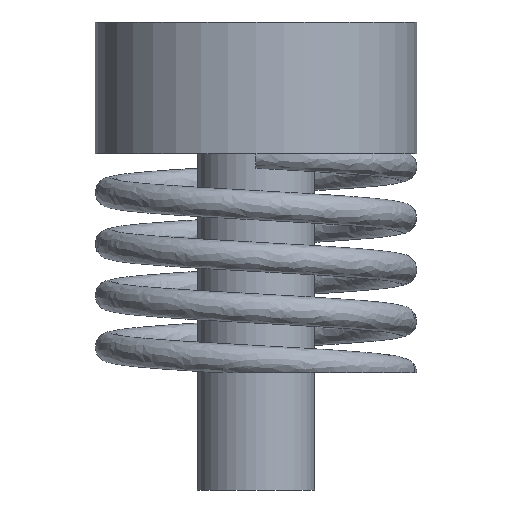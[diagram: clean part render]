
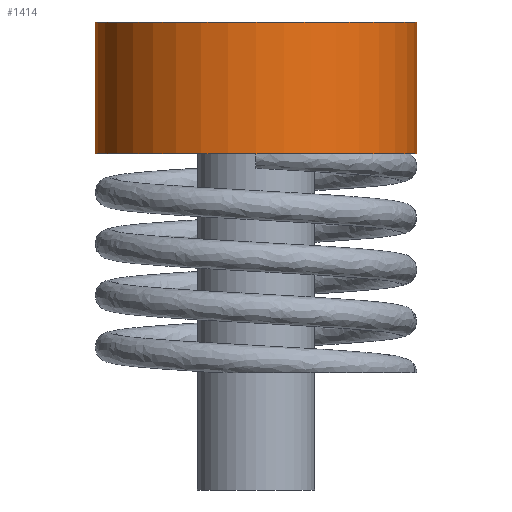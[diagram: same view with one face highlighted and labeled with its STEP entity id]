
A CAD part, front view. The second image highlights one B-rep face of the part: STEP entity #1414.
In plain terms, the highlighted cylindrical face has radius 5.5 mm (diameter 11 mm), a partial arc.
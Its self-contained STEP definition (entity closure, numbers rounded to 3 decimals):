
#150 = CARTESIAN_POINT ( 'NONE',  ( 0., 0., -4.5 ) ) ;
#180 = DIRECTION ( 'NONE',  ( 0., 0., 1. ) ) ;
#264 = EDGE_LOOP ( 'NONE', ( #1579, #1354, #2897, #3402 ) ) ;
#320 = VERTEX_POINT ( 'NONE', #778 ) ;
#501 = CARTESIAN_POINT ( 'NONE',  ( 5.5, 0., 0. ) ) ;
#622 = DIRECTION ( 'NONE',  ( 1., 0., 0. ) ) ;
#676 = AXIS2_PLACEMENT_3D ( 'NONE', #150, #1903, #1554 ) ;
#778 = CARTESIAN_POINT ( 'NONE',  ( -5.5, 0., -4.5 ) ) ;
#818 = VECTOR ( 'NONE', #180, 1000. ) ;
#1249 = CARTESIAN_POINT ( 'NONE',  ( 5.5, 0., -4.5 ) ) ;
#1354 = ORIENTED_EDGE ( 'NONE', *, *, #1686, .T. ) ;
#1363 = EDGE_CURVE ( 'NONE', #320, #1736, #3597, .T. ) ;
#1383 = VERTEX_POINT ( 'NONE', #1249 ) ;
#1384 = VECTOR ( 'NONE', #3268, 1000. ) ;
#1414 = ADVANCED_FACE ( 'NONE', ( #4171 ), #1846, .T. ) ;
#1516 = CARTESIAN_POINT ( 'NONE',  ( 0., 0., 0. ) ) ;
#1554 = DIRECTION ( 'NONE',  ( 1., 0., 0. ) ) ;
#1579 = ORIENTED_EDGE ( 'NONE', *, *, #1363, .F. ) ;
#1686 = EDGE_CURVE ( 'NONE', #320, #1383, #2499, .T. ) ;
#1717 = VERTEX_POINT ( 'NONE', #3238 ) ;
#1736 = VERTEX_POINT ( 'NONE', #1822 ) ;
#1822 = CARTESIAN_POINT ( 'NONE',  ( -5.5, 0., 0. ) ) ;
#1846 = CYLINDRICAL_SURFACE ( 'NONE', #2569, 5.5 ) ;
#1903 = DIRECTION ( 'NONE',  ( 0., 0., 1. ) ) ;
#2224 = CIRCLE ( 'NONE', #2710, 5.5 ) ;
#2499 = CIRCLE ( 'NONE', #676, 5.5 ) ;
#2569 = AXIS2_PLACEMENT_3D ( 'NONE', #1516, #2850, #3662 ) ;
#2710 = AXIS2_PLACEMENT_3D ( 'NONE', #4029, #4272, #622 ) ;
#2850 = DIRECTION ( 'NONE',  ( 0., 0., 1. ) ) ;
#2897 = ORIENTED_EDGE ( 'NONE', *, *, #3046, .T. ) ;
#3046 = EDGE_CURVE ( 'NONE', #1383, #1717, #4153, .T. ) ;
#3238 = CARTESIAN_POINT ( 'NONE',  ( 5.5, 0., 0. ) ) ;
#3268 = DIRECTION ( 'NONE',  ( 0., 0., 1. ) ) ;
#3402 = ORIENTED_EDGE ( 'NONE', *, *, #3480, .F. ) ;
#3480 = EDGE_CURVE ( 'NONE', #1736, #1717, #2224, .T. ) ;
#3597 = LINE ( 'NONE', #3864, #1384 ) ;
#3662 = DIRECTION ( 'NONE',  ( 1., 0., 0. ) ) ;
#3864 = CARTESIAN_POINT ( 'NONE',  ( -5.5, 0., 0. ) ) ;
#4029 = CARTESIAN_POINT ( 'NONE',  ( 0., 0., 0. ) ) ;
#4153 = LINE ( 'NONE', #501, #818 ) ;
#4171 = FACE_OUTER_BOUND ( 'NONE', #264, .T. ) ;
#4272 = DIRECTION ( 'NONE',  ( 0., 0., 1. ) ) ;
